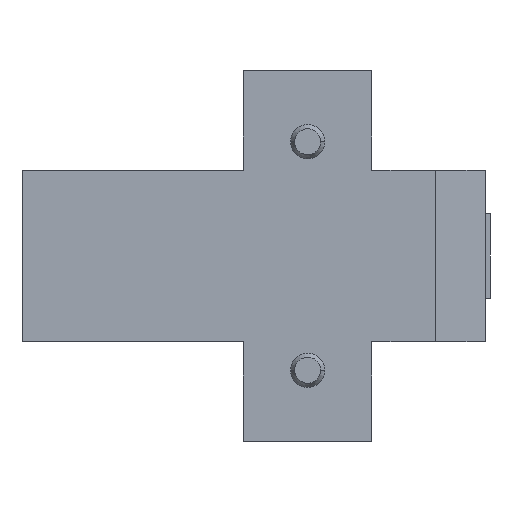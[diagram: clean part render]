
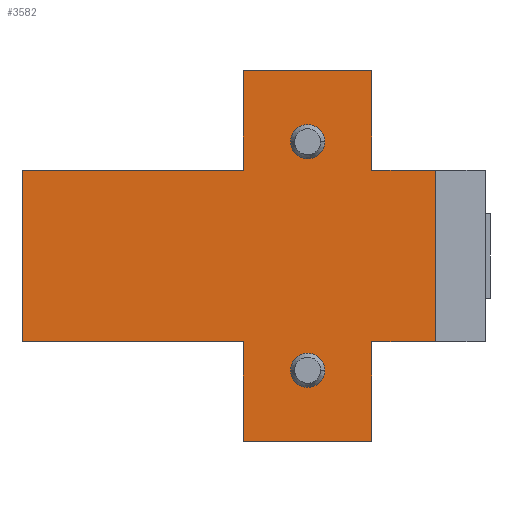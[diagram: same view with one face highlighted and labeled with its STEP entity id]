
A CAD part, left-side view. The second image highlights one B-rep face of the part: STEP entity #3582.
In plain terms, the highlighted planar face has unit normal (-1, 0, 0).
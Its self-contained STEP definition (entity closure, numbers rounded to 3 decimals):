
#10 = VECTOR ( 'NONE', #2619, 1000. ) ;
#24 = VECTOR ( 'NONE', #2668, 1000. ) ;
#25 = LINE ( 'NONE', #2670, #24 ) ;
#45 = VECTOR ( 'NONE', #2592, 1000. ) ;
#52 = LINE ( 'NONE', #2595, #45 ) ;
#60 = LINE ( 'NONE', #2625, #10 ) ;
#65 = LINE ( 'NONE', #2656, #75 ) ;
#75 = VECTOR ( 'NONE', #2655, 1000. ) ;
#428 = EDGE_LOOP ( 'NONE', ( #2928, #2929 ) ) ;
#431 = EDGE_LOOP ( 'NONE', ( #2942, #2943 ) ) ;
#433 = EDGE_LOOP ( 'NONE', ( #2930, #2931, #2932, #2933, #2934, #2935, #2936, #2937, #2938, #2939, #2940, #2941 ) ) ;
#638 = VECTOR ( 'NONE', #2455, 1000. ) ;
#656 = LINE ( 'NONE', #2484, #638 ) ;
#700 = VECTOR ( 'NONE', #2697, 1000. ) ;
#701 = VECTOR ( 'NONE', #2704, 1000. ) ;
#706 = LINE ( 'NONE', #2710, #700 ) ;
#708 = CIRCLE ( 'NONE', #3396, 2.4 ) ;
#711 = LINE ( 'NONE', #2717, #701 ) ;
#728 = CARTESIAN_POINT ( 'NONE',  ( 0., 0., -16. ) ) ;
#746 = CARTESIAN_POINT ( 'NONE',  ( 0., 40., 12. ) ) ;
#760 = CARTESIAN_POINT ( 'NONE',  ( 0., -9., -26. ) ) ;
#763 = CARTESIAN_POINT ( 'NONE',  ( 0., 9., -26. ) ) ;
#768 = CARTESIAN_POINT ( 'NONE',  ( 0., 40., -12. ) ) ;
#771 = CARTESIAN_POINT ( 'NONE',  ( 0., 9., -12. ) ) ;
#772 = CARTESIAN_POINT ( 'NONE',  ( 0., 9., 26. ) ) ;
#786 = CARTESIAN_POINT ( 'NONE',  ( 0., -17.9, 12. ) ) ;
#799 = CARTESIAN_POINT ( 'NONE',  ( 0., -17.9, -12. ) ) ;
#805 = CARTESIAN_POINT ( 'NONE',  ( 0., 9., 12. ) ) ;
#817 = CARTESIAN_POINT ( 'NONE',  ( 0., -9., 12. ) ) ;
#819 = CARTESIAN_POINT ( 'NONE',  ( 0., -2.4, -16. ) ) ;
#820 = CARTESIAN_POINT ( 'NONE',  ( 0., 2.4, -16. ) ) ;
#905 = CARTESIAN_POINT ( 'NONE',  ( 0., -9., -12. ) ) ;
#1018 = LINE ( 'NONE', #2281, #1019 ) ;
#1019 = VECTOR ( 'NONE', #2279, 1000. ) ;
#1045 = CIRCLE ( 'NONE', #3152, 2.4 ) ;
#1097 = LINE ( 'NONE', #1589, #1098 ) ;
#1098 = VECTOR ( 'NONE', #1585, 1000. ) ;
#1125 = LINE ( 'NONE', #1443, #1126 ) ;
#1126 = VECTOR ( 'NONE', #1441, 1000. ) ;
#1133 = CIRCLE ( 'NONE', #3285, 2.4 ) ;
#1264 = LINE ( 'NONE', #2447, #1265 ) ;
#1265 = VECTOR ( 'NONE', #2446, 1000. ) ;
#1274 = CIRCLE ( 'NONE', #3343, 2.4 ) ;
#1341 = LINE ( 'NONE', #2337, #1342 ) ;
#1342 = VECTOR ( 'NONE', #2334, 1000. ) ;
#1413 = DIRECTION ( 'NONE',  ( 0., 0., -1. ) ) ;
#1414 = DIRECTION ( 'NONE',  ( -1., 0., 0. ) ) ;
#1441 = DIRECTION ( 'NONE',  ( 0., 0., 1. ) ) ;
#1443 = CARTESIAN_POINT ( 'NONE',  ( 0., 40., -12. ) ) ;
#1505 = CARTESIAN_POINT ( 'NONE',  ( 0., 0., 16. ) ) ;
#1585 = DIRECTION ( 'NONE',  ( 0., -1., 0. ) ) ;
#1589 = CARTESIAN_POINT ( 'NONE',  ( 0., -9., 12. ) ) ;
#1755 = DIRECTION ( 'NONE',  ( 0., 0., -1. ) ) ;
#1756 = DIRECTION ( 'NONE',  ( 1., 0., 0. ) ) ;
#1757 = CARTESIAN_POINT ( 'NONE',  ( 0., -5.007, -12. ) ) ;
#1758 = PLANE ( 'NONE',  #3073 ) ;
#1833 = DIRECTION ( 'NONE',  ( 0., 0., -1. ) ) ;
#1835 = DIRECTION ( 'NONE',  ( -1., 0., 0. ) ) ;
#1882 = CARTESIAN_POINT ( 'NONE',  ( 0., -9., 26. ) ) ;
#1885 = CARTESIAN_POINT ( 'NONE',  ( 0., 2.4, 16. ) ) ;
#1902 = CARTESIAN_POINT ( 'NONE',  ( 0., -2.4, 16. ) ) ;
#1939 = VERTEX_POINT ( 'NONE', #1902 ) ;
#1945 = VERTEX_POINT ( 'NONE', #1885 ) ;
#1948 = VERTEX_POINT ( 'NONE', #1882 ) ;
#1958 = VERTEX_POINT ( 'NONE', #799 ) ;
#1962 = VERTEX_POINT ( 'NONE', #805 ) ;
#1966 = VERTEX_POINT ( 'NONE', #786 ) ;
#1991 = VERTEX_POINT ( 'NONE', #771 ) ;
#1992 = VERTEX_POINT ( 'NONE', #772 ) ;
#1998 = VERTEX_POINT ( 'NONE', #768 ) ;
#2000 = VERTEX_POINT ( 'NONE', #760 ) ;
#2003 = VERTEX_POINT ( 'NONE', #763 ) ;
#2017 = VERTEX_POINT ( 'NONE', #817 ) ;
#2019 = VERTEX_POINT ( 'NONE', #819 ) ;
#2020 = VERTEX_POINT ( 'NONE', #820 ) ;
#2058 = VERTEX_POINT ( 'NONE', #746 ) ;
#2083 = VERTEX_POINT ( 'NONE', #905 ) ;
#2140 = FACE_OUTER_BOUND ( 'NONE', #433, .T. ) ;
#2143 = FACE_BOUND ( 'NONE', #428, .T. ) ;
#2148 = FACE_BOUND ( 'NONE', #431, .T. ) ;
#2279 = DIRECTION ( 'NONE',  ( 0., 0., 1. ) ) ;
#2281 = CARTESIAN_POINT ( 'NONE',  ( 0., 9., -26. ) ) ;
#2285 = CARTESIAN_POINT ( 'NONE',  ( 0., 0., 16. ) ) ;
#2334 = DIRECTION ( 'NONE',  ( 0., 1., 0. ) ) ;
#2337 = CARTESIAN_POINT ( 'NONE',  ( 0., -9., 26. ) ) ;
#2430 = DIRECTION ( 'NONE',  ( 0., 0., -1. ) ) ;
#2432 = DIRECTION ( 'NONE',  ( -1., 0., 0. ) ) ;
#2446 = DIRECTION ( 'NONE',  ( 0., 1., 0. ) ) ;
#2447 = CARTESIAN_POINT ( 'NONE',  ( 0., -5.007, -12. ) ) ;
#2455 = DIRECTION ( 'NONE',  ( 0., 0., 1. ) ) ;
#2467 = CARTESIAN_POINT ( 'NONE',  ( 0., 0., -16. ) ) ;
#2484 = CARTESIAN_POINT ( 'NONE',  ( 0., -9., -26. ) ) ;
#2592 = DIRECTION ( 'NONE',  ( 0., 0., 1. ) ) ;
#2595 = CARTESIAN_POINT ( 'NONE',  ( 0., -9., -26. ) ) ;
#2619 = DIRECTION ( 'NONE',  ( 0., 0., -1. ) ) ;
#2625 = CARTESIAN_POINT ( 'NONE',  ( 0., -17.9, 38.015 ) ) ;
#2655 = DIRECTION ( 'NONE',  ( 0., 1., 0. ) ) ;
#2656 = CARTESIAN_POINT ( 'NONE',  ( 0., -5.007, 12. ) ) ;
#2668 = DIRECTION ( 'NONE',  ( 0., 1., 0. ) ) ;
#2670 = CARTESIAN_POINT ( 'NONE',  ( 0., -9., -26. ) ) ;
#2697 = DIRECTION ( 'NONE',  ( 0., 0., 1. ) ) ;
#2704 = DIRECTION ( 'NONE',  ( 0., 1., 0. ) ) ;
#2710 = CARTESIAN_POINT ( 'NONE',  ( 0., 9., -26. ) ) ;
#2717 = CARTESIAN_POINT ( 'NONE',  ( 0., -9., -12. ) ) ;
#2733 = DIRECTION ( 'NONE',  ( 0., 0., -1. ) ) ;
#2737 = DIRECTION ( 'NONE',  ( -1., 0., 0. ) ) ;
#2928 = ORIENTED_EDGE ( 'NONE', *, *, #3147, .F. ) ;
#2929 = ORIENTED_EDGE ( 'NONE', *, *, #3391, .F. ) ;
#2930 = ORIENTED_EDGE ( 'NONE', *, *, #3477, .F. ) ;
#2931 = ORIENTED_EDGE ( 'NONE', *, *, #3272, .T. ) ;
#2932 = ORIENTED_EDGE ( 'NONE', *, *, #3549, .F. ) ;
#2933 = ORIENTED_EDGE ( 'NONE', *, *, #3386, .F. ) ;
#2934 = ORIENTED_EDGE ( 'NONE', *, *, #3157, .F. ) ;
#2935 = ORIENTED_EDGE ( 'NONE', *, *, #3267, .F. ) ;
#2936 = ORIENTED_EDGE ( 'NONE', *, *, #3308, .T. ) ;
#2937 = ORIENTED_EDGE ( 'NONE', *, *, #3153, .F. ) ;
#2938 = ORIENTED_EDGE ( 'NONE', *, *, #3290, .F. ) ;
#2939 = ORIENTED_EDGE ( 'NONE', *, *, #3529, .F. ) ;
#2940 = ORIENTED_EDGE ( 'NONE', *, *, #3198, .T. ) ;
#2941 = ORIENTED_EDGE ( 'NONE', *, *, #3450, .T. ) ;
#2942 = ORIENTED_EDGE ( 'NONE', *, *, #3554, .F. ) ;
#2943 = ORIENTED_EDGE ( 'NONE', *, *, #3496, .F. ) ;
#3073 = AXIS2_PLACEMENT_3D ( 'NONE', #1757, #1756, #1755 ) ;
#3147 = EDGE_CURVE ( 'NONE', #2019, #2020, #708, .T. ) ;
#3152 = AXIS2_PLACEMENT_3D ( 'NONE', #2285, #1835, #1833 ) ;
#3153 = EDGE_CURVE ( 'NONE', #1958, #2083, #711, .T. ) ;
#3157 = EDGE_CURVE ( 'NONE', #2003, #1991, #706, .T. ) ;
#3198 = EDGE_CURVE ( 'NONE', #2017, #1948, #656, .T. ) ;
#3267 = EDGE_CURVE ( 'NONE', #2000, #2003, #25, .T. ) ;
#3272 = EDGE_CURVE ( 'NONE', #1962, #2058, #65, .T. ) ;
#3285 = AXIS2_PLACEMENT_3D ( 'NONE', #1505, #1414, #1413 ) ;
#3290 = EDGE_CURVE ( 'NONE', #1966, #1958, #60, .T. ) ;
#3308 = EDGE_CURVE ( 'NONE', #2000, #2083, #52, .T. ) ;
#3343 = AXIS2_PLACEMENT_3D ( 'NONE', #2467, #2432, #2430 ) ;
#3386 = EDGE_CURVE ( 'NONE', #1991, #1998, #1264, .T. ) ;
#3391 = EDGE_CURVE ( 'NONE', #2020, #2019, #1274, .T. ) ;
#3396 = AXIS2_PLACEMENT_3D ( 'NONE', #728, #2737, #2733 ) ;
#3450 = EDGE_CURVE ( 'NONE', #1948, #1992, #1341, .T. ) ;
#3477 = EDGE_CURVE ( 'NONE', #1962, #1992, #1018, .T. ) ;
#3496 = EDGE_CURVE ( 'NONE', #1945, #1939, #1045, .T. ) ;
#3529 = EDGE_CURVE ( 'NONE', #2017, #1966, #1097, .T. ) ;
#3549 = EDGE_CURVE ( 'NONE', #1998, #2058, #1125, .T. ) ;
#3554 = EDGE_CURVE ( 'NONE', #1939, #1945, #1133, .T. ) ;
#3582 = ADVANCED_FACE ( 'NONE', ( #2143, #2140, #2148 ), #1758, .F. ) ;
